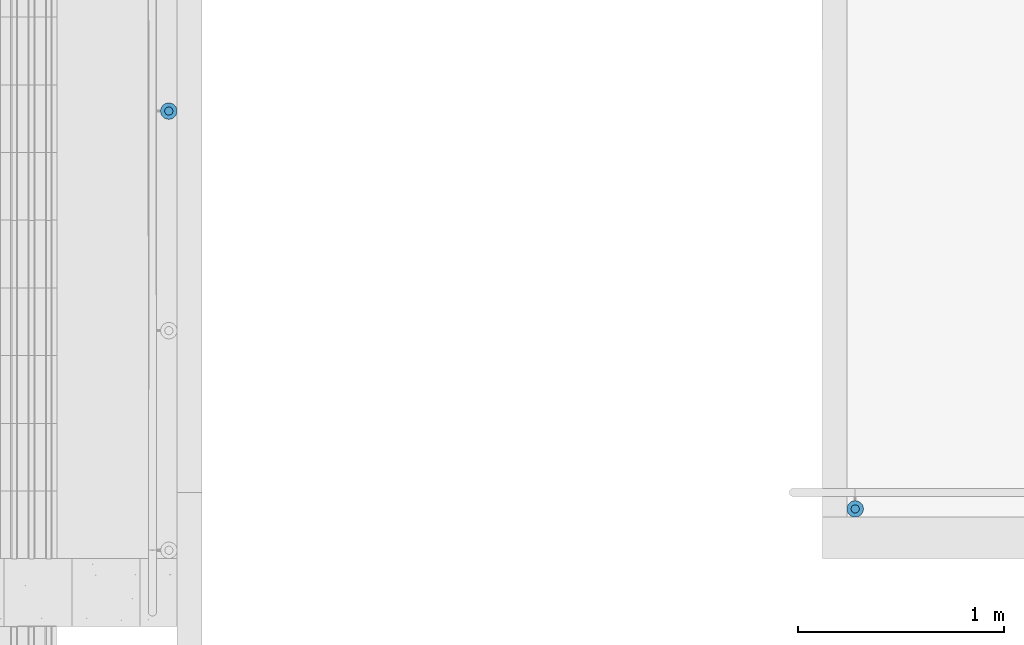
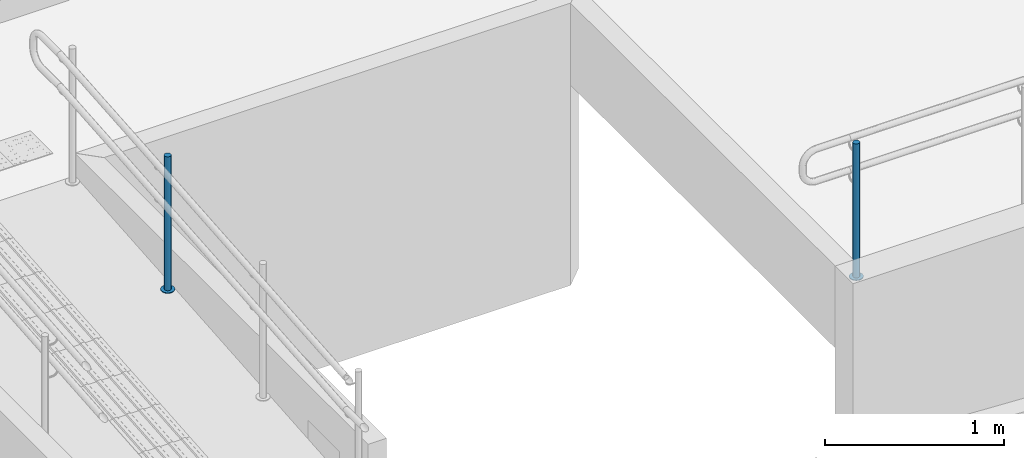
# One storey, part 103 of 237: 4 building element parts, 2 elements without a shape of their own.
"""IFC2X3 building model written with IfcOpenShell, lengths in millimetres."""

from ifc_helpers import new_model, entity, si_unit, converted_unit, derived_unit, money_unit, direction, frame, origin_with_axes, place, context, subcontext, project, spatial, faceted_brep, material, type_object, element, aggregate, save


model = new_model("IFC2X3")

# Units and contexts
model_context = context("Model", 3, precision=0.01, world=origin_with_axes(), true_north=direction((0.0, 1.0)))
body_context = subcontext(model_context, "Body", "Model", "MODEL_VIEW")
ifc_project = project(units=[si_unit("LENGTHUNIT", "METRE", prefix="MILLI"), si_unit("AREAUNIT", "SQUARE_METRE"), si_unit("VOLUMEUNIT", "CUBIC_METRE"), converted_unit("PLANEANGLEUNIT", "DEGREE", entity("IfcPlaneAngleMeasure", 0.0174532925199), si_unit("PLANEANGLEUNIT", "RADIAN"), dimensions=[0, 0, 0, 0, 0, 0, 0]), money_unit("USD"), converted_unit("TIMEUNIT", "Year", entity("IfcTimeMeasure", 31556926.0), si_unit("TIMEUNIT", "SECOND"), dimensions=[0, 0, 1, 0, 0, 0, 0]), si_unit("MASSUNIT", "GRAM", prefix="KILO"), si_unit("THERMODYNAMICTEMPERATUREUNIT", "DEGREE_CELSIUS"), si_unit("LUMINOUSINTENSITYUNIT", "LUMEN"), si_unit("ENERGYUNIT", "JOULE", prefix="MEGA"), derived_unit("THERMALCONDUCTANCEUNIT", [(si_unit("POWERUNIT", "WATT"), 1), (si_unit("LENGTHUNIT", "METRE"), -1), (si_unit("THERMODYNAMICTEMPERATUREUNIT", "KELVIN"), -1)]), derived_unit("SPECIFICHEATCAPACITYUNIT", [(si_unit("ENERGYUNIT", "JOULE"), 1), (si_unit("MASSUNIT", "GRAM", prefix="KILO"), -1), (si_unit("THERMODYNAMICTEMPERATUREUNIT", "KELVIN"), -1)]), derived_unit("MASSDENSITYUNIT", [(si_unit("MASSUNIT", "GRAM", prefix="KILO"), 1), (si_unit("VOLUMEUNIT", "CUBIC_METRE"), -1)])], contexts=[model_context])

# Site, building, storey
site_placement = place(None, origin_with_axes())
site = spatial("IfcSite", under=ifc_project, at=site_placement, Name="Local", CompositionType="ELEMENT")
building_placement = place(site_placement, origin_with_axes())
building = spatial("IfcBuilding", under=site, at=building_placement, Name="Construção", CompositionType="ELEMENT")
storey_placement = place(building_placement, origin_with_axes())
storey = spatial("IfcBuildingStorey", under=building, at=storey_placement, Name="Pavimento Térreo", CompositionType="ELEMENT", Elevation=0.0)

# Railing, building element parts
railing_type = type_object("IfcRailingType", Name="Tipo de Guarda-Corpo", PredefinedType="NOTDEFINED")
railing_1_placement = place(storey_placement, frame((84886.384695, 12791.8118634, -5267.74663192), z_axis=(0.0, 0.0, 1.0), x_axis=(1.0, 0.0, 0.0)))
railing_1 = element("IfcRailing", 1, at=railing_1_placement, inside=storey, type_object=railing_type, Name="Guarda-Corpo - 001", PredefinedType="NOTDEFINED")
ifc_material_1 = material(Name="Aço - Inoxidável")
building_element_part_1_placement = place(railing_1_placement, origin_with_axes())
building_element_part_1 = element("IfcBuildingElementPart", 2, at=building_element_part_1_placement, material=ifc_material_1, Name="Aço - Inoxidável", context=body_context, shape_type="Brep", body=[
    faceted_brep([(-20.8233903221, 2169.85518287, 186.038666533), (-20.5203769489, 2173.32821908, 186.038666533), (-20.5203769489, 2173.32821908, 1101.03866653), (-20.8233903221, 2169.85518287, 1101.03866653), (-20.8250534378, 2176.80110978, 186.038666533), (-21.7248866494, 2166.48752761, 186.038666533), (-23.197474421, 2163.32757779, 186.038666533), (-25.1964098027, 2160.4713469, 186.038666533), (-27.6609561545, 2158.00562005, 186.038666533), (-30.5162294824, 2156.00531712, 186.038666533), (-33.6754737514, 2154.5312163, 186.038666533), (-37.0426969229, 2153.62810739, 186.038666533), (-40.5155876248, 2153.3234309, 186.038666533), (-43.9886238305, 2153.62644427, 186.038666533), (-47.3562790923, 2154.5279406, 186.038666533), (-50.5162289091, 2156.00052837, 186.038666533), (-53.3724598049, 2157.99946375, 186.038666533), (-55.8381866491, 2160.4640101, 186.038666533), (-57.8384895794, 2163.31928343, 186.038666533), (-59.3125904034, 2166.4785277, 186.038666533), (-60.2156993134, 2169.84575087, 186.038666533), (-60.5203758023, 2173.31864157, 186.038666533), (-60.2173624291, 2176.79167778, 186.038666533), (-59.3158661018, 2180.15933304, 186.038666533), (-57.8432783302, 2183.31928286, 186.038666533), (-55.8443429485, 2186.17551375, 186.038666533), (-53.3797965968, 2188.6412406, 186.038666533), (-50.5245232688, 2190.64154353, 186.038666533), (-47.3652789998, 2192.11564435, 186.038666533), (-43.9980558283, 2193.01875326, 186.038666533), (-40.5251651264, 2193.32342975, 186.038666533), (-37.0521289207, 2193.02041638, 186.038666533), (-33.684473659, 2192.11892005, 186.038666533), (-30.5245238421, 2190.64633228, 186.038666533), (-27.6682929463, 2188.6473969, 186.038666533), (-25.2025661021, 2186.18285055, 186.038666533), (-23.2022631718, 2183.32757722, 186.038666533), (-21.7281623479, 2180.16833295, 186.038666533), (-20.8250534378, 2176.80110978, 1101.03866653), (-43.9886238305, 2153.62644427, 1101.03866653), (-40.5155876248, 2153.3234309, 1101.03866653), (-37.0426969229, 2153.62810739, 1101.03866653), (-33.6754737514, 2154.5312163, 1101.03866653), (-30.5162294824, 2156.00531712, 1101.03866653), (-27.6609561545, 2158.00562005, 1101.03866653), (-25.1964098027, 2160.4713469, 1101.03866653), (-23.197474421, 2163.32757779, 1101.03866653), (-21.7248866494, 2166.48752761, 1101.03866653), (-21.7281623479, 2180.16833295, 1101.03866653), (-23.2022631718, 2183.32757722, 1101.03866653), (-25.2025661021, 2186.18285055, 1101.03866653), (-27.6682929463, 2188.6473969, 1101.03866653), (-30.5245238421, 2190.64633228, 1101.03866653), (-33.684473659, 2192.11892005, 1101.03866653), (-37.0521289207, 2193.02041638, 1101.03866653), (-40.5251651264, 2193.32342975, 1101.03866653), (-43.9980558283, 2193.01875326, 1101.03866653), (-47.3652789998, 2192.11564435, 1101.03866653), (-50.5245232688, 2190.64154353, 1101.03866653), (-53.3797965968, 2188.6412406, 1101.03866653), (-55.8443429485, 2186.17551375, 1101.03866653), (-57.8432783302, 2183.31928286, 1101.03866653), (-59.3158661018, 2180.15933304, 1101.03866653), (-60.2173624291, 2176.79167778, 1101.03866653), (-60.5203758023, 2173.31864157, 1101.03866653), (-60.2156993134, 2169.84575087, 1101.03866653), (-59.3125904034, 2166.4785277, 1101.03866653), (-57.8384895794, 2163.31928343, 1101.03866653), (-55.8381866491, 2160.4640101, 1101.03866653), (-53.3724598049, 2157.99946375, 1101.03866653), (-50.5162289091, 2156.00052837, 1101.03866653), (-47.3562790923, 2154.5279406, 1101.03866653)], [[[0, 1, 2, 3]], [[4, 1, 0, 5, 6, 7, 8, 9, 10, 11, 12, 13, 14, 15, 16, 17, 18, 19, 20, 21, 22, 23, 24, 25, 26, 27, 28, 29, 30, 31, 32, 33, 34, 35, 36, 37]], [[1, 4, 38, 2]], [[39, 40, 41, 42, 43, 44, 45, 46, 47, 3, 2, 38, 48, 49, 50, 51, 52, 53, 54, 55, 56, 57, 58, 59, 60, 61, 62, 63, 64, 65, 66, 67, 68, 69, 70, 71]], [[5, 0, 3, 47]], [[6, 5, 47, 46]], [[7, 6, 46, 45]], [[8, 7, 45, 44]], [[9, 8, 44, 43]], [[10, 9, 43, 42]], [[11, 10, 42, 41]], [[12, 11, 41, 40]], [[13, 12, 40, 39]], [[14, 13, 39, 71]], [[15, 14, 71, 70]], [[16, 15, 70, 69]], [[17, 16, 69, 68]], [[18, 17, 68, 67]], [[19, 18, 67, 66]], [[20, 19, 66, 65]], [[21, 20, 65, 64]], [[22, 21, 64, 63]], [[23, 22, 63, 62]], [[24, 23, 62, 61]], [[25, 24, 61, 60]], [[26, 25, 60, 59]], [[27, 26, 59, 58]], [[28, 27, 58, 57]], [[29, 28, 57, 56]], [[30, 29, 56, 55]], [[31, 30, 55, 54]], [[32, 31, 54, 53]], [[33, 32, 53, 52]], [[34, 33, 52, 51]], [[35, 34, 51, 50]], [[36, 35, 50, 49]], [[37, 36, 49, 48]], [[4, 37, 48, 38]]]),
])
ifc_material_2 = material(Name="Alumínio")
building_element_part_2_placement = place(railing_1_placement, origin_with_axes())
building_element_part_2 = element("IfcBuildingElementPart", 3, at=building_element_part_2_placement, material=ifc_material_2, Name="Alumínio", context=body_context, shape_type="Brep", body=[
    faceted_brep([(-40.5299538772, 2213.32342918, 181.038666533), (-47.475735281, 2212.7140762, 181.038666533), (-47.475735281, 2212.7140762, 186.038666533), (-40.5299538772, 2213.32342918, 186.038666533), (-33.5838814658, 2212.71740243, 181.038666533), (-26.8485709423, 2210.91440978, 181.038666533), (-20.5286713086, 2207.96923423, 181.038666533), (-14.816209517, 2203.97136347, 181.038666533), (-9.88475582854, 2199.04227077, 181.038666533), (-5.88414996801, 2193.33172411, 181.038666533), (-2.93594832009, 2187.01323557, 181.038666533), (-1.1297305, 2180.27878923, 181.038666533), (-0.520377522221, 2173.33300783, 181.038666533), (-1.12640426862, 2166.38693541, 181.038666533), (-2.92939692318, 2159.65162489, 181.038666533), (-5.87457246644, 2153.33172526, 181.038666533), (-9.87244322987, 2147.61926347, 181.038666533), (-14.8015359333, 2142.68780978, 181.038666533), (-20.5120825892, 2138.68720392, 181.038666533), (-26.8305711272, 2135.73900227, 181.038666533), (-33.5650174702, 2133.93278445, 181.038666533), (-40.510798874, 2133.32343147, 181.038666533), (-47.4568712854, 2133.92945822, 181.038666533), (-54.1921818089, 2135.73245087, 181.038666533), (-60.5120814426, 2138.67762642, 181.038666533), (-66.2245432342, 2142.67549718, 181.038666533), (-71.1559969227, 2147.60458988, 181.038666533), (-75.1566027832, 2153.31513654, 181.038666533), (-78.1048044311, 2159.63362508, 181.038666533), (-79.9110222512, 2166.36807142, 181.038666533), (-80.520375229, 2173.31385282, 181.038666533), (-79.9143484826, 2180.25992523, 181.038666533), (-78.111355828, 2186.99523576, 181.038666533), (-75.1661802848, 2193.31513539, 181.038666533), (-71.1683095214, 2199.02759718, 181.038666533), (-66.2392168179, 2203.95905087, 181.038666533), (-60.528670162, 2207.95965673, 181.038666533), (-54.210181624, 2210.90785838, 181.038666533), (-54.210181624, 2210.90785838, 186.038666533), (-60.528670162, 2207.95965673, 186.038666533), (-66.2392168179, 2203.95905087, 186.038666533), (-71.1683095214, 2199.02759718, 186.038666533), (-75.1661802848, 2193.31513539, 186.038666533), (-78.111355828, 2186.99523576, 186.038666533), (-79.9143484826, 2180.25992523, 186.038666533), (-80.520375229, 2173.31385282, 186.038666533), (-79.9110222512, 2166.36807142, 186.038666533), (-78.1048044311, 2159.63362508, 186.038666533), (-75.1566027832, 2153.31513654, 186.038666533), (-71.1559969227, 2147.60458988, 186.038666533), (-66.2245432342, 2142.67549718, 186.038666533), (-60.5120814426, 2138.67762642, 186.038666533), (-54.1921818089, 2135.73245087, 186.038666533), (-47.4568712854, 2133.92945822, 186.038666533), (-40.510798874, 2133.32343147, 186.038666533), (-33.5650174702, 2133.93278445, 186.038666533), (-26.8305711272, 2135.73900227, 186.038666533), (-20.5120825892, 2138.68720392, 186.038666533), (-14.8015359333, 2142.68780978, 186.038666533), (-9.87244322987, 2147.61926347, 186.038666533), (-5.87457246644, 2153.33172526, 186.038666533), (-2.92939692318, 2159.65162489, 186.038666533), (-1.12640426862, 2166.38693541, 186.038666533), (-0.520377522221, 2173.33300783, 186.038666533), (-1.1297305, 2180.27878923, 186.038666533), (-2.93594832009, 2187.01323557, 186.038666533), (-5.88414996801, 2193.33172411, 186.038666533), (-9.88475582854, 2199.04227077, 186.038666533), (-14.816209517, 2203.97136347, 186.038666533), (-20.5286713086, 2207.96923423, 186.038666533), (-26.8485709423, 2210.91440978, 186.038666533), (-33.5838814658, 2212.71740243, 186.038666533)], [[[0, 1, 2, 3]], [[0, 4, 5, 6, 7, 8, 9, 10, 11, 12, 13, 14, 15, 16, 17, 18, 19, 20, 21, 22, 23, 24, 25, 26, 27, 28, 29, 30, 31, 32, 33, 34, 35, 36, 37, 1]], [[1, 37, 38, 2]], [[3, 2, 38, 39, 40, 41, 42, 43, 44, 45, 46, 47, 48, 49, 50, 51, 52, 53, 54, 55, 56, 57, 58, 59, 60, 61, 62, 63, 64, 65, 66, 67, 68, 69, 70, 71]], [[4, 0, 3, 71]], [[5, 4, 71, 70]], [[6, 5, 70, 69]], [[7, 6, 69, 68]], [[8, 7, 68, 67]], [[9, 8, 67, 66]], [[10, 9, 66, 65]], [[11, 10, 65, 64]], [[12, 11, 64, 63]], [[13, 12, 63, 62]], [[14, 13, 62, 61]], [[15, 14, 61, 60]], [[16, 15, 60, 59]], [[17, 16, 59, 58]], [[18, 17, 58, 57]], [[19, 18, 57, 56]], [[20, 19, 56, 55]], [[21, 20, 55, 54]], [[22, 21, 54, 53]], [[23, 22, 53, 52]], [[24, 23, 52, 51]], [[25, 24, 51, 50]], [[26, 25, 50, 49]], [[27, 26, 49, 48]], [[28, 27, 48, 47]], [[29, 28, 47, 46]], [[30, 29, 46, 45]], [[31, 30, 45, 44]], [[32, 31, 44, 43]], [[33, 32, 43, 42]], [[34, 33, 42, 41]], [[35, 34, 41, 40]], [[36, 35, 40, 39]], [[37, 36, 39, 38]]]),
])
aggregate(railing_1, [building_element_part_1, building_element_part_2])

railing_2_placement = place(storey_placement, frame((88000.0, 12000.0, -7124.22292764), z_axis=(0.0, 0.0, 1.0), x_axis=(1.0, 0.0, 0.0)))
railing_2 = element("IfcRailing", 4, at=railing_2_placement, inside=storey, type_object=railing_type, Name="Guarda-Corpo - 003", PredefinedType="NOTDEFINED")
building_element_part_3_placement = place(railing_2_placement, origin_with_axes())
building_element_part_3 = element("IfcBuildingElementPart", 5, at=building_element_part_3_placement, material=ifc_material_1, Name="Aço - Inoxidável", context=body_context, shape_type="Brep", body=[
    faceted_brep([(176.716682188, 1012.88145246, 2134.61538462), (180.189719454, 1012.57845125, 2134.61538462), (180.189719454, 1012.57845125, 3049.61538462), (176.716682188, 1012.88145246, 3049.61538462), (183.66260909, 1012.88313989, 2134.61538462), (173.34902377, 1013.782937, 2134.61538462), (170.189068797, 1015.2555137, 2134.61538462), (167.332830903, 1017.25443909, 2134.61538462), (164.86709543, 1019.7189768, 2134.61538462), (162.866782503, 1022.57424313, 2134.61538462), (161.392670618, 1025.73348224, 2134.61538462), (160.489549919, 1029.10070225, 2134.61538462), (160.184861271, 1032.57359188, 2134.61538462), (160.487862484, 1036.04662915, 2134.61538462), (161.389347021, 1039.41428757, 2134.61538462), (162.861923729, 1042.57424254, 2134.61538462), (164.86084911, 1045.43048043, 2134.61538462), (167.325386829, 1047.89621591, 2134.61538462), (170.180653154, 1049.89652883, 2134.61538462), (173.339892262, 1051.37064072, 2134.61538462), (176.707112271, 1052.27376142, 2134.61538462), (180.180001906, 1052.57845007, 2134.61538462), (183.653039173, 1052.27544885, 2134.61538462), (187.020697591, 1051.37396432, 2134.61538462), (190.180652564, 1049.90138761, 2134.61538462), (193.036890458, 1047.90246223, 2134.61538462), (195.502625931, 1045.43792451, 2134.61538462), (197.502938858, 1042.58265818, 2134.61538462), (198.977050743, 1039.42341907, 2134.61538462), (199.880171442, 1036.05619907, 2134.61538462), (200.18486009, 1032.58330943, 2134.61538462), (199.881858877, 1029.11027216, 2134.61538462), (198.98037434, 1025.74261375, 2134.61538462), (197.507797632, 1022.58265877, 2134.61538462), (195.50887225, 1019.72642088, 2134.61538462), (193.044334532, 1017.26068541, 2134.61538462), (190.189068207, 1015.26037248, 2134.61538462), (187.029829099, 1013.78626059, 2134.61538462), (183.66260909, 1012.88313989, 3049.61538462), (160.487862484, 1036.04662915, 3049.61538462), (160.184861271, 1032.57359188, 3049.61538462), (160.489549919, 1029.10070225, 3049.61538462), (161.392670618, 1025.73348224, 3049.61538462), (162.866782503, 1022.57424313, 3049.61538462), (164.86709543, 1019.7189768, 3049.61538462), (167.332830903, 1017.25443909, 3049.61538462), (170.189068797, 1015.2555137, 3049.61538462), (173.34902377, 1013.782937, 3049.61538462), (187.029829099, 1013.78626059, 3049.61538462), (190.189068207, 1015.26037248, 3049.61538462), (193.044334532, 1017.26068541, 3049.61538462), (195.50887225, 1019.72642088, 3049.61538462), (197.507797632, 1022.58265877, 3049.61538462), (198.98037434, 1025.74261375, 3049.61538462), (199.881858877, 1029.11027216, 3049.61538462), (200.18486009, 1032.58330943, 3049.61538462), (199.880171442, 1036.05619907, 3049.61538462), (198.977050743, 1039.42341907, 3049.61538462), (197.502938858, 1042.58265818, 3049.61538462), (195.502625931, 1045.43792451, 3049.61538462), (193.036890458, 1047.90246223, 3049.61538462), (190.180652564, 1049.90138761, 3049.61538462), (187.020697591, 1051.37396432, 3049.61538462), (183.653039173, 1052.27544885, 3049.61538462), (180.180001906, 1052.57845007, 3049.61538462), (176.707112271, 1052.27376142, 3049.61538462), (173.339892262, 1051.37064072, 3049.61538462), (170.180653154, 1049.89652883, 3049.61538462), (167.325386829, 1047.89621591, 3049.61538462), (164.86084911, 1045.43048043, 3049.61538462), (162.861923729, 1042.57424254, 3049.61538462), (161.389347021, 1039.41428757, 3049.61538462)], [[[0, 1, 2, 3]], [[4, 1, 0, 5, 6, 7, 8, 9, 10, 11, 12, 13, 14, 15, 16, 17, 18, 19, 20, 21, 22, 23, 24, 25, 26, 27, 28, 29, 30, 31, 32, 33, 34, 35, 36, 37]], [[1, 4, 38, 2]], [[39, 40, 41, 42, 43, 44, 45, 46, 47, 3, 2, 38, 48, 49, 50, 51, 52, 53, 54, 55, 56, 57, 58, 59, 60, 61, 62, 63, 64, 65, 66, 67, 68, 69, 70, 71]], [[5, 0, 3, 47]], [[6, 5, 47, 46]], [[7, 6, 46, 45]], [[8, 7, 45, 44]], [[9, 8, 44, 43]], [[10, 9, 43, 42]], [[11, 10, 42, 41]], [[12, 11, 41, 40]], [[13, 12, 40, 39]], [[14, 13, 39, 71]], [[15, 14, 71, 70]], [[16, 15, 70, 69]], [[17, 16, 69, 68]], [[18, 17, 68, 67]], [[19, 18, 67, 66]], [[20, 19, 66, 65]], [[21, 20, 65, 64]], [[22, 21, 64, 63]], [[23, 22, 63, 62]], [[24, 23, 62, 61]], [[25, 24, 61, 60]], [[26, 25, 60, 59]], [[27, 26, 59, 58]], [[28, 27, 58, 57]], [[29, 28, 57, 56]], [[30, 29, 56, 55]], [[31, 30, 55, 54]], [[32, 31, 54, 53]], [[33, 32, 53, 52]], [[34, 33, 52, 51]], [[35, 34, 51, 50]], [[36, 35, 50, 49]], [[37, 36, 49, 48]], [[4, 37, 48, 38]]]),
])
building_element_part_4_placement = place(railing_2_placement, origin_with_axes())
building_element_part_4 = element("IfcBuildingElementPart", 6, at=building_element_part_4_placement, material=ifc_material_2, Name="Alumínio", context=body_context, shape_type="Brep", body=[
    faceted_brep([(220.1848595, 1032.5881682, 2129.61538462), (219.575482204, 1039.53394747, 2129.61538462), (219.575482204, 1039.53394747, 2134.61538462), (220.1848595, 1032.5881682, 2134.61538462), (219.578857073, 1025.64209367, 2129.61538462), (217.775888, 1018.90677683, 2129.61538462), (214.830734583, 1012.58686689, 2129.61538462), (210.83288382, 1006.8743911, 2129.61538462), (205.903808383, 1001.94292015, 2129.61538462), (200.193275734, 997.942294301, 2129.61538462), (193.874797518, 994.994070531, 2129.61538462), (187.140357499, 993.187829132, 2129.61538462), (180.194578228, 992.578451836, 2129.61538462), (173.248503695, 993.184454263, 2129.61538462), (166.513186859, 994.987423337, 2129.61538462), (160.193276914, 997.932576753, 2129.61538462), (154.480801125, 1001.93042752, 2129.61538462), (149.549330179, 1006.85950295, 2129.61538462), (145.548704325, 1012.5700356, 2129.61538462), (142.600480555, 1018.88851382, 2129.61538462), (140.794239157, 1025.62295384, 2129.61538462), (140.184861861, 1032.56873311, 2129.61538462), (140.790864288, 1039.51480764, 2129.61538462), (142.593833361, 1046.25012448, 2129.61538462), (145.538986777, 1052.57003442, 2129.61538462), (149.53683754, 1058.28251021, 2129.61538462), (154.465912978, 1063.21398116, 2129.61538462), (160.176445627, 1067.21460701, 2129.61538462), (166.494923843, 1070.16283078, 2129.61538462), (173.229363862, 1071.96907218, 2129.61538462), (180.175143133, 1072.57844948, 2129.61538462), (187.121217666, 1071.97244705, 2129.61538462), (193.856534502, 1070.16947798, 2129.61538462), (200.176444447, 1067.22432456, 2129.61538462), (205.888920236, 1063.2264738, 2129.61538462), (210.820391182, 1058.29739836, 2129.61538462), (214.821017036, 1052.58686571, 2129.61538462), (217.769240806, 1046.26838749, 2129.61538462), (217.769240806, 1046.26838749, 2134.61538462), (214.821017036, 1052.58686571, 2134.61538462), (210.820391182, 1058.29739836, 2134.61538462), (205.888920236, 1063.2264738, 2134.61538462), (200.176444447, 1067.22432456, 2134.61538462), (193.856534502, 1070.16947798, 2134.61538462), (187.121217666, 1071.97244705, 2134.61538462), (180.175143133, 1072.57844948, 2134.61538462), (173.229363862, 1071.96907218, 2134.61538462), (166.494923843, 1070.16283078, 2134.61538462), (160.176445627, 1067.21460701, 2134.61538462), (154.465912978, 1063.21398116, 2134.61538462), (149.53683754, 1058.28251021, 2134.61538462), (145.538986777, 1052.57003442, 2134.61538462), (142.593833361, 1046.25012448, 2134.61538462), (140.790864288, 1039.51480764, 2134.61538462), (140.184861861, 1032.56873311, 2134.61538462), (140.794239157, 1025.62295384, 2134.61538462), (142.600480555, 1018.88851382, 2134.61538462), (145.548704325, 1012.5700356, 2134.61538462), (149.549330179, 1006.85950295, 2134.61538462), (154.480801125, 1001.93042752, 2134.61538462), (160.193276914, 997.932576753, 2134.61538462), (166.513186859, 994.987423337, 2134.61538462), (173.248503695, 993.184454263, 2134.61538462), (180.194578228, 992.578451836, 2134.61538462), (187.140357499, 993.187829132, 2134.61538462), (193.874797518, 994.994070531, 2134.61538462), (200.193275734, 997.942294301, 2134.61538462), (205.903808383, 1001.94292015, 2134.61538462), (210.83288382, 1006.8743911, 2134.61538462), (214.830734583, 1012.58686689, 2134.61538462), (217.775888, 1018.90677683, 2134.61538462), (219.578857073, 1025.64209367, 2134.61538462)], [[[0, 1, 2, 3]], [[0, 4, 5, 6, 7, 8, 9, 10, 11, 12, 13, 14, 15, 16, 17, 18, 19, 20, 21, 22, 23, 24, 25, 26, 27, 28, 29, 30, 31, 32, 33, 34, 35, 36, 37, 1]], [[1, 37, 38, 2]], [[3, 2, 38, 39, 40, 41, 42, 43, 44, 45, 46, 47, 48, 49, 50, 51, 52, 53, 54, 55, 56, 57, 58, 59, 60, 61, 62, 63, 64, 65, 66, 67, 68, 69, 70, 71]], [[4, 0, 3, 71]], [[5, 4, 71, 70]], [[6, 5, 70, 69]], [[7, 6, 69, 68]], [[8, 7, 68, 67]], [[9, 8, 67, 66]], [[10, 9, 66, 65]], [[11, 10, 65, 64]], [[12, 11, 64, 63]], [[13, 12, 63, 62]], [[14, 13, 62, 61]], [[15, 14, 61, 60]], [[16, 15, 60, 59]], [[17, 16, 59, 58]], [[18, 17, 58, 57]], [[19, 18, 57, 56]], [[20, 19, 56, 55]], [[21, 20, 55, 54]], [[22, 21, 54, 53]], [[23, 22, 53, 52]], [[24, 23, 52, 51]], [[25, 24, 51, 50]], [[26, 25, 50, 49]], [[27, 26, 49, 48]], [[28, 27, 48, 47]], [[29, 28, 47, 46]], [[30, 29, 46, 45]], [[31, 30, 45, 44]], [[32, 31, 44, 43]], [[33, 32, 43, 42]], [[34, 33, 42, 41]], [[35, 34, 41, 40]], [[36, 35, 40, 39]], [[37, 36, 39, 38]]]),
])
aggregate(railing_2, [building_element_part_3, building_element_part_4])

save(model, "model.ifc")
